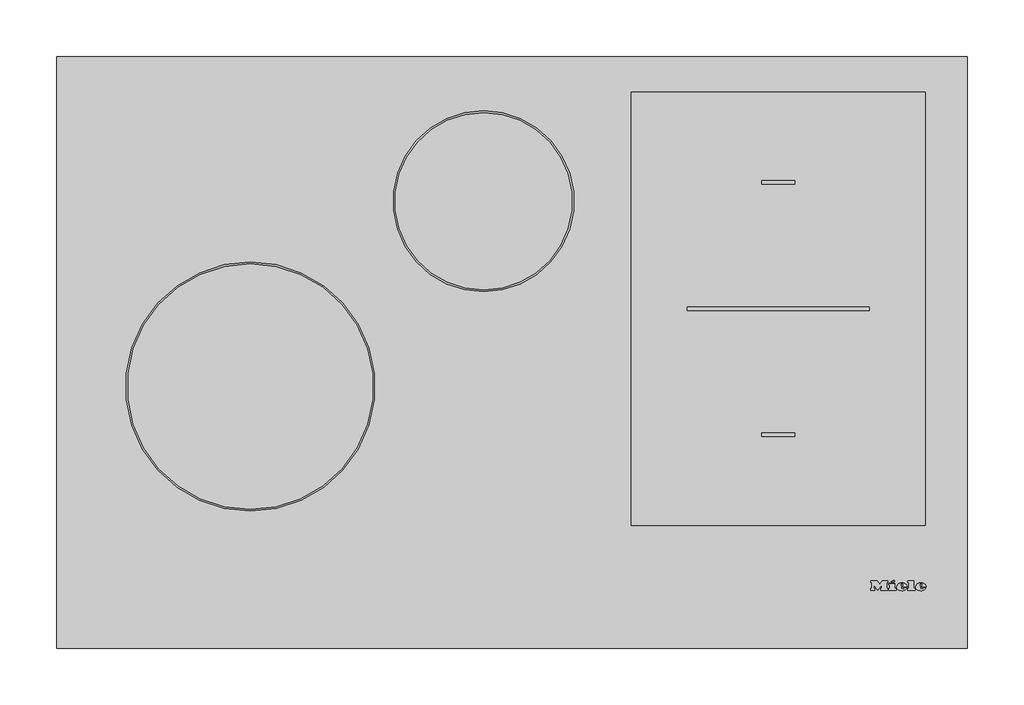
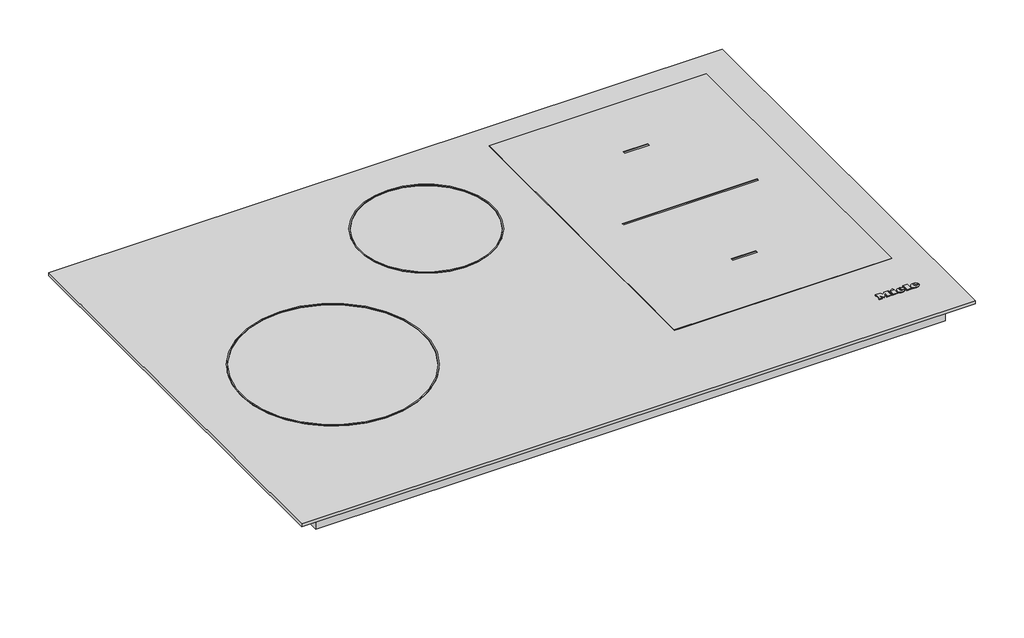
# Not in any storey: 1 proxy.
"""IFC4 building model written with IfcOpenShell, lengths in millimetres."""

import ifcopenshell
import ifcopenshell.guid

model = None  # the IFC model being written
_history = None  # IfcOwnerHistory: only IFC2X3 demands one
_inside = {}  # id of a spatial element -> (the spatial element, [elements in it])
_under = {}  # id of a project, library or spatial element -> (it, [spatial elements below it])
_declared = {}  # id of a project -> (the project, [libraries it declares])
_typed = {}  # id of a type object -> (the type object, [elements of that type])
_made_of = {}  # id of a material, layer set ... -> (it, [elements and type objects made of it])


def new_model(schema):
    """Start an empty IFC model of exactly this schema.

    Asked for "IFC4X3", IfcOpenShell would pick the latest addendum, in which some entities
    have other attributes; the version numbers below select the first issue.
    IFC2X3 requires an IfcOwnerHistory on every rooted entity: one is made here for all.
    """
    global model, _history
    if schema == "IFC4X3":
        model = ifcopenshell.file(schema_version=(4, 3, 0, 0))
    else:
        model = ifcopenshell.file(schema=schema)
    _inside.clear()
    _under.clear()
    _declared.clear()
    _typed.clear()
    _made_of.clear()
    _history = None
    if model.schema == "IFC2X3":
        org = make("IfcOrganization", Name="unknown")
        user = make(
            "IfcPersonAndOrganization",
            ThePerson=make("IfcPerson", FamilyName="unknown"),
            TheOrganization=org,
        )
        app = make(
            "IfcApplication",
            ApplicationDeveloper=org,
            Version="unknown",
            ApplicationFullName="unknown",
            ApplicationIdentifier="unknown",
        )
        _history = make(
            "IfcOwnerHistory",
            OwningUser=user,
            OwningApplication=app,
            ChangeAction="ADDED",
            CreationDate=0,
        )
    return model


def make(cls, **values):
    """One entity of the class cls with the attributes given. An attribute that is None is left unset."""
    return model.create_entity(
        cls, **{name: value for name, value in values.items() if value is not None}
    )


def rooted(cls, **values):
    """An entity with a GlobalId (a new one), such as an element, a storey or a relation."""
    return make(cls, GlobalId=ifcopenshell.guid.new(), OwnerHistory=_history, **values)


def si_unit(unit_type, name, prefix=None):
    """IfcSIUnit, for example si_unit("LENGTHUNIT", "METRE", prefix="MILLI")."""
    return make("IfcSIUnit", UnitType=unit_type, Prefix=prefix, Name=name)


def assignment(units):
    """IfcUnitAssignment: the units of a project."""
    return None if units is None else make("IfcUnitAssignment", Units=units)


def point(xyz):
    """IfcCartesianPoint."""
    return None if xyz is None else make("IfcCartesianPoint", Coordinates=xyz)


def direction(xyz):
    """IfcDirection."""
    return None if xyz is None else make("IfcDirection", DirectionRatios=xyz)


def frame(location, z_axis=None, x_axis=None):
    """IfcAxis2Placement3D, a coordinate frame: its origin and axes. An axis left out is left unset."""
    return make(
        "IfcAxis2Placement3D",
        Location=point(location),
        Axis=direction(z_axis),
        RefDirection=direction(x_axis),
    )


def frame_2d(location, x_axis=None):
    """IfcAxis2Placement2D, a coordinate frame in the plane: its origin and x axis."""
    return make(
        "IfcAxis2Placement2D", Location=point(location), RefDirection=direction(x_axis)
    )


def origin():
    """The frame at (0, 0, 0) with its axes left unset."""
    return frame((0.0, 0.0, 0.0))


def origin_with_axes():
    """The frame at (0, 0, 0) with the z axis (0, 0, 1) and the x axis (1, 0, 0) written out."""
    return frame((0.0, 0.0, 0.0), z_axis=(0.0, 0.0, 1.0), x_axis=(1.0, 0.0, 0.0))


def place(relative_to, where):
    """IfcLocalPlacement: puts the frame where relative to a parent placement (None: the world)."""
    return make(
        "IfcLocalPlacement", PlacementRelTo=relative_to, RelativePlacement=where
    )


def context(
    kind, dimensions, precision=None, world=None, true_north=None, identifier=None
):
    """IfcGeometricRepresentationContext, for example the 3D "Model" context."""
    return make(
        "IfcGeometricRepresentationContext",
        ContextIdentifier=identifier,
        ContextType=kind,
        CoordinateSpaceDimension=dimensions,
        Precision=precision,
        WorldCoordinateSystem=world,
        TrueNorth=true_north,
    )


def project(units=None, contexts=None):
    """IfcProject with its units and contexts."""
    return rooted(
        "IfcProject",
        Name="project",
        RepresentationContexts=contexts,
        UnitsInContext=assignment(units),
    )


def spatial(cls, under=None, at=None, **own):
    """A site, building, storey or space (cls), placed at a placement, below another one or the project."""
    s = rooted(cls, ObjectPlacement=at, **own)
    if under is not None:
        _under.setdefault(under.id(), (under, []))[1].append(s)
    return s


def polyline(points):
    """IfcPolyline through the points."""
    return make("IfcPolyline", Points=[point(p) for p in points])


def circle_curve(where, radius):
    """IfcCircle in the frame where."""
    return make("IfcCircle", Position=where, Radius=radius)


def ellipse_curve(where, semi_axis1, semi_axis2):
    """IfcEllipse in the frame where."""
    return make(
        "IfcEllipse", Position=where, SemiAxis1=semi_axis1, SemiAxis2=semi_axis2
    )


def trimmed(basis, trim1, trim2, sense, master):
    """IfcTrimmedCurve: the piece of a basis curve between two trims."""
    return make(
        "IfcTrimmedCurve",
        BasisCurve=basis,
        Trim1=trim1,
        Trim2=trim2,
        SenseAgreement=sense,
        MasterRepresentation=master,
    )


def segment(curve, same_sense, transition):
    """IfcCompositeCurveSegment."""
    return make(
        "IfcCompositeCurveSegment",
        Transition=transition,
        SameSense=same_sense,
        ParentCurve=curve,
    )


def composite_curve(segments, self_intersect=None):
    """IfcCompositeCurve: segments joined end to end."""
    return make("IfcCompositeCurve", Segments=segments, SelfIntersect=self_intersect)


def outline(outer, holes=None, kind="AREA"):
    """IfcArbitraryClosedProfileDef: a profile drawn as a closed curve; with holes, ...WithVoids."""
    if holes is None:
        return make("IfcArbitraryClosedProfileDef", ProfileType=kind, OuterCurve=outer)
    return make(
        "IfcArbitraryProfileDefWithVoids",
        ProfileType=kind,
        OuterCurve=outer,
        InnerCurves=holes,
    )


def extrude(swept, where, along, depth):
    """IfcExtrudedAreaSolid: the profile swept, set in the frame where, extruded along a direction by depth."""
    return make(
        "IfcExtrudedAreaSolid",
        SweptArea=swept,
        Position=where,
        ExtrudedDirection=direction(along),
        Depth=depth,
    )


def shape(context_of_items, identifier, shape_type, items):
    """IfcShapeRepresentation: the items that make up one representation, for example the "Body"."""
    return make(
        "IfcShapeRepresentation",
        ContextOfItems=context_of_items,
        RepresentationIdentifier=identifier,
        RepresentationType=shape_type,
        Items=items,
    )


def source(mapping_origin, context_of_items, identifier, shape_type, items):
    """IfcRepresentationMap: a shape defined once, which mapped items show again and again."""
    return make(
        "IfcRepresentationMap",
        MappingOrigin=mapping_origin,
        MappedRepresentation=shape(context_of_items, identifier, shape_type, items),
    )


def transform(
    local_origin,
    x_axis=None,
    y_axis=None,
    z_axis=None,
    scale=None,
    scale2=None,
    scale3=None,
    uniform=True,
):
    """IfcCartesianTransformationOperator3D, or its non-uniform kind. x_axis, y_axis, z_axis: its Axis1, 2, 3."""
    if uniform:
        return make(
            "IfcCartesianTransformationOperator3D",
            Axis1=direction(x_axis),
            Axis2=direction(y_axis),
            LocalOrigin=point(local_origin),
            Scale=scale,
            Axis3=direction(z_axis),
        )
    return make(
        "IfcCartesianTransformationOperator3DnonUniform",
        Axis1=direction(x_axis),
        Axis2=direction(y_axis),
        LocalOrigin=point(local_origin),
        Scale=scale,
        Axis3=direction(z_axis),
        Scale2=scale2,
        Scale3=scale3,
    )


def mapped(mapping_source, mapping_target):
    """IfcMappedItem: shows the shape of a source again, moved by a transform."""
    return make(
        "IfcMappedItem", MappingSource=mapping_source, MappingTarget=mapping_target
    )


def made_of(thing, what):
    """Note that an element or type object is made of a material, layer set ...; save() writes the relation."""
    if what is not None:
        _made_of.setdefault(what.id(), (what, []))[1].append(thing)
    return thing


def element(
    cls,
    number,
    at=None,
    inside=None,
    cuts=None,
    type_object=None,
    material=None,
    context=None,
    identifier="Body",
    shape_type=None,
    held_by="IfcProductDefinitionShape",
    body=None,
    shapes=None,
    **own,
):
    """One element of the class cls, such as IfcWall. Its Tag is "e" and its number.

    at: its placement. inside: the storey or other place that contains it. cuts: it is an
    opening in that element (IfcRelVoidsElement). A single representation is given by context,
    identifier, shape_type and body (its items); several are given by shapes. held_by: the class
    of the entity that holds the representations. save() writes the other relations.
    """
    e = rooted(cls, Tag="e%d" % number, ObjectPlacement=at, **own)
    if body is not None:
        shapes = [shape(context, identifier, shape_type, body)]
    if shapes is not None:
        e.Representation = make(held_by, Representations=shapes)
    if inside is not None:
        _inside.setdefault(inside.id(), (inside, []))[1].append(e)
    if cuts is not None:
        rooted(
            "IfcRelVoidsElement", RelatingBuildingElement=cuts, RelatedOpeningElement=e
        )
    if type_object is not None:
        _typed.setdefault(type_object.id(), (type_object, []))[1].append(e)
    return made_of(e, material)


def aggregate(whole, parts):
    """IfcRelAggregates: a whole, such as a stair, and the parts it consists of."""
    return rooted("IfcRelAggregates", RelatingObject=whole, RelatedObjects=parts)


def save(model, path):
    """Write the relations noted so far, then the file.

    IfcRelAggregates (storeys below a building ...), IfcRelContainedInSpatialStructure (elements
    in a storey), IfcRelDefinesByType, IfcRelAssociatesMaterial and IfcRelDeclares: one each for
    every whole, place, type object, material and project.
    """
    for whole, parts in _under.values():
        aggregate(whole, parts)
    for where, things in _inside.values():
        rooted(
            "IfcRelContainedInSpatialStructure",
            RelatedElements=things,
            RelatingStructure=where,
        )
    for kind, things in _typed.values():
        rooted("IfcRelDefinesByType", RelatedObjects=things, RelatingType=kind)
    for what, things in _made_of.values():
        rooted("IfcRelAssociatesMaterial", RelatedObjects=things, RelatingMaterial=what)
    for by, libraries in _declared.values():
        rooted("IfcRelDeclares", RelatingContext=by, RelatedDefinitions=libraries)
    model.write(path)


def plane_surface(at):
    """IfcPlane: the flat surface through the origin of the frame at, square to its z axis."""
    return make("IfcPlane", Position=at)


def cylinder_surface(at, radius):
    """IfcCylindricalSurface: all points at the distance radius from the z axis of the frame at."""
    return make("IfcCylindricalSurface", Position=at, Radius=radius)


def revolved_surface(curve, axis_point, axis_direction):
    """IfcSurfaceOfRevolution: the curve turned about the line through axis_point along axis_direction."""
    return make(
        "IfcSurfaceOfRevolution",
        SweptCurve=make("IfcArbitraryOpenProfileDef", ProfileType="CURVE", Curve=curve),
        AxisPosition=make("IfcAxis1Placement", Location=point(axis_point), Axis=direction(axis_direction)),
    )


def extruded_surface(curve, direction_of_extrusion, depth):
    """IfcSurfaceOfLinearExtrusion: the curve pushed along a direction by depth."""
    return make(
        "IfcSurfaceOfLinearExtrusion",
        SweptCurve=make("IfcArbitraryOpenProfileDef", ProfileType="CURVE", Curve=curve),
        ExtrudedDirection=direction(direction_of_extrusion),
        Depth=depth,
    )


def advanced_brep(points, edges, surfaces, faces):
    """IfcAdvancedBrep: a solid bounded by faces that lie on surfaces and meet in shared edges.

    An edge is (start, end): straight between two places in points (the first is 0);
    or (start, end, curve); or (start, end, curve, False) where it runs against its curve.
    A face is (place in surfaces, loops), or (place, loops, False) where it looks against
    its surface's normal. A loop lists edges by number (the first is 1), with a minus sign
    where the edge is run from its end to its start. The first loop is the outer one.
    """
    corners = [point(p) for p in points]
    vertices = [make("IfcVertexPoint", VertexGeometry=c) for c in corners]
    made = []
    for start, end, *more in edges:
        made.append(
            make(
                "IfcEdgeCurve",
                EdgeStart=vertices[start],
                EdgeEnd=vertices[end],
                EdgeGeometry=more[0] if more else make("IfcPolyline", Points=[corners[start], corners[end]]),
                SameSense=more[1] if len(more) > 1 else True,
            )
        )
    hull = []
    for where, loops, *sense in faces:
        bounds = []
        for j, loop in enumerate(loops):
            ring = [make("IfcOrientedEdge", EdgeElement=made[abs(k) - 1], Orientation=k > 0) for k in loop]
            bounds.append(
                make(
                    "IfcFaceOuterBound" if j == 0 else "IfcFaceBound",
                    Bound=make("IfcEdgeLoop", EdgeList=ring),
                    Orientation=True,
                )
            )
        hull.append(make("IfcAdvancedFace", Bounds=bounds, FaceSurface=surfaces[where], SameSense=sense[0] if sense else True))
    return make("IfcAdvancedBrep", Outer=make("IfcClosedShell", CfsFaces=hull))


def specialty_equipment_5556e589(model_context):
    return source(origin(), model_context, "Body", "SolidModel", [
        advanced_brep(
        [(358.648, 52.8948833, 4.9922537), (358.648, 53.7028828, 4.9931551), (364.0, 53.7028828, 4.9931551), (354.688, 53.7028828, 4.9931551), (356.888, 50.9988845, 4.9901386), (363.864, 52.8948833, 4.9922537), (361.448, 52.8948833, 4.9922537), (359.544, 51.9988838, 4.9912542), (358.648, 54.7268821, 4.9942974), (358.648, 55.5988816, 4.9952701), (360.016, 55.5988816, 4.9952701), (360.016, 54.7268821, 4.9942974), (358.648, 52.8959988, 3.9922543), (359.544, 51.9999994, 3.9912548), (361.448, 52.8959988, 3.9922543), (363.864, 52.8959988, 3.9922543), (356.888, 51.0, 3.9901393), (354.688, 53.7039983, 3.9931557), (364.0, 53.7039983, 3.9931557), (358.648, 53.7039983, 3.9931557), (358.648, 54.7279977, 3.994298), (360.016, 54.7279977, 3.994298), (360.016, 55.5999971, 3.9952707), (358.648, 55.5999971, 3.9952707)],
        [
            (0, 1),
            (1, 2),
            (2, 3, ellipse_curve(frame((359.344, 53.7028828, 4.9931551), z_axis=(0.0, -0.0011155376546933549, 0.9999993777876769), x_axis=(-1.0, 0.0, 0.0)), 4.656, 3.848)),
            (3, 4, circle_curve(frame((357.7840436, 53.9748826, 4.9934585), z_axis=(0.0, -0.0011155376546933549, 0.9999993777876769), x_axis=(0.0, -0.9999993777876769, -0.0011155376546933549)), 3.1079688)),
            (4, 5, circle_curve(frame((359.2507936, 56.0868813, 4.9958145), z_axis=(0.0, -0.0011155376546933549, 0.9999993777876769), x_axis=(0.0, -0.9999993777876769, -0.0011155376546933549)), 5.6098607)),
            (5, 6),
            (6, 7, circle_curve(frame((359.9350588, 53.6388828, 4.9930837), z_axis=(0.0, 0.0011155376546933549, -0.9999993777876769), x_axis=(0.0, -0.9999993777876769, -0.0011155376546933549)), 1.6859795)),
            (7, 0, circle_curve(frame((359.544, 52.8948833, 4.9922537), z_axis=(0.0, 0.0011155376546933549, -0.9999993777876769), x_axis=(0.0, -0.9999993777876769, -0.0011155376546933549)), 0.896)),
            (8, 9),
            (9, 10, circle_curve(frame((359.332, 55.5988816, 4.9952701), z_axis=(0.0, 0.0011155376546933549, -0.9999993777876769), x_axis=(0.0, -0.9999993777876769, -0.0011155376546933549)), 0.684)),
            (10, 11),
            (11, 8),
            (12, 13, circle_curve(frame((359.544, 52.8959988, 3.9922543), z_axis=(0.0, -0.0011155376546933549, 0.9999993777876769), x_axis=(0.0, -0.9999993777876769, -0.0011155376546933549)), 0.896)),
            (13, 14, circle_curve(frame((359.9350588, 53.6399984, 3.9930843), z_axis=(0.0, -0.0011155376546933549, 0.9999993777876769), x_axis=(0.0, -0.9999993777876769, -0.0011155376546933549)), 1.6859795)),
            (14, 15),
            (15, 16, circle_curve(frame((359.2507936, 56.0879968, 3.9958151), z_axis=(0.0, 0.0011155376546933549, -0.9999993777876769), x_axis=(0.0, -0.9999993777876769, -0.0011155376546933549)), 5.6098607)),
            (16, 17, circle_curve(frame((357.7840436, 53.9759981, 3.9934591), z_axis=(0.0, 0.0011155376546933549, -0.9999993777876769), x_axis=(0.0, -0.9999993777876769, -0.0011155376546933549)), 3.1079688)),
            (17, 18, ellipse_curve(frame((359.344, 53.7039983, 3.9931557), z_axis=(0.0, 0.0011155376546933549, -0.9999993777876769), x_axis=(-1.0, 0.0, 0.0)), 4.656, 3.848)),
            (18, 19),
            (19, 12),
            (20, 21),
            (21, 22),
            (22, 23, circle_curve(frame((359.332, 55.5999971, 3.9952707), z_axis=(0.0, -0.0011155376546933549, 0.9999993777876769), x_axis=(0.0, -0.9999993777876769, -0.0011155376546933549)), 0.684)),
            (23, 20),
            (0, 12),
            (19, 1),
            (18, 2),
            (5, 15),
            (14, 6),
            (17, 3),
            (13, 7),
            (16, 4),
            (8, 20),
            (23, 9),
            (22, 10),
            (21, 11),
        ],
        [
            plane_surface(frame((358.648, 53.7028828, 4.9931551), z_axis=(0.0, -0.0011155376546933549, 0.9999993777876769), x_axis=(0.0, 0.9999993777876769, 0.0011155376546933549))),
            plane_surface(frame((358.648, 53.7039983, 3.9931557), z_axis=(0.0, 0.0011155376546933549, -0.9999993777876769), x_axis=(0.0, -0.9999993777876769, -0.0011155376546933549))),
            plane_surface(frame((358.648, 52.8948833, 4.9922537), z_axis=(1.0000000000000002, 0.0, 0.0), x_axis=(0.0, 0.001115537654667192, -0.999999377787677))),
            plane_surface(frame((358.648, 53.7028828, 4.9931551), z_axis=(0.0, -0.999999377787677, -0.001115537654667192), x_axis=(0.0, 0.001115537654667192, -0.999999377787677))),
            plane_surface(frame((363.864, 52.8948833, 4.9922537), z_axis=(0.0, 0.999999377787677, 0.001115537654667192), x_axis=(0.0, 0.001115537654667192, -0.999999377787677))),
            extruded_surface(trimmed(ellipse_curve(frame((359.344, 53.7051139, 2.9931563), z_axis=(0.0, -0.0011155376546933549, 0.9999993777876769), x_axis=(-1.0, 0.0, 0.0)), 4.656, 3.848), [point((364.0, 53.7051139, 2.9931563))], [point((354.688, 53.7051139, 2.9931563))], True, "CARTESIAN"), (0.0, -0.001115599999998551, 0.9999994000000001), 1.00000002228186),
            revolved_surface(polyline([(359.9350588, 51.954019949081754, 3.991203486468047), (359.9350588, 51.95290441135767, 4.99120292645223)]), (359.9350588, 53.6399984, 3.9930843), (0.0, 0.0011155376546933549, -0.9999993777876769)),
            revolved_surface(polyline([(359.544, 51.99999935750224, 3.9912547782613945), (359.544, 51.99888381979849, 4.991254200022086)]), (359.544, 52.8959988, 3.9922543), (0.0, 0.0011155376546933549, -0.9999993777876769)),
            cylinder_surface(frame((357.7840436, 53.9759981, 3.9934591), z_axis=(0.0, -0.0011155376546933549, 0.9999993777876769), x_axis=(0.0, -0.9999993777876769, -0.0011155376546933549)), 3.1079688),
            cylinder_surface(frame((359.2507936, 56.0879968, 3.9958151), z_axis=(0.0, -0.0011155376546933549, 0.9999993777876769), x_axis=(0.0, -0.9999993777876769, -0.0011155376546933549)), 5.6098607),
            plane_surface(frame((358.648, 54.7268821, 4.9942974), z_axis=(1.0000000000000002, 0.0, 0.0), x_axis=(0.0, 0.001115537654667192, -0.999999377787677))),
            revolved_surface(polyline([(359.332, 54.915997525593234, 3.9945076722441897), (359.332, 54.91488198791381, 4.994507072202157)]), (359.332, 55.5999971, 3.9952707), (0.0, 0.0011155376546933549, -0.9999993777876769)),
            plane_surface(frame((360.016, 55.5988816, 4.9952701), z_axis=(-1.0000000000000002, 0.0, 0.0), x_axis=(0.0, 0.001115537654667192, -0.999999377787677))),
            plane_surface(frame((360.016, 54.7268821, 4.9942974), z_axis=(0.0, 0.999999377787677, 0.001115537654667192), x_axis=(0.0, 0.001115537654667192, -0.999999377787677))),
        ],
        [
            (0, [[1, 2, 3, 4, 5, 6, 7, 8], [9, 10, 11, 12]]),
            (1, [[13, 14, 15, 16, 17, 18, 19, 20], [21, 22, 23, 24]]),
            (2, [[-1, 25, -20, 26]]),
            (3, [[-2, -26, -19, 27]]),
            (4, [[-6, 28, -15, 29]]),
            (5, [[-3, -27, -18, 30]]),
            (6, [[-7, -29, -14, 31]]),
            (7, [[-8, -31, -13, -25]]),
            (8, [[-4, -30, -17, 32]]),
            (9, [[-5, -32, -16, -28]]),
            (10, [[-9, 33, -24, 34]]),
            (11, [[-10, -34, -23, 35]]),
            (12, [[-11, -35, -22, 36]]),
            (13, [[-12, -36, -21, -33]]),
        ],
    ),
        advanced_brep(
        [(341.952, 52.8948833, 4.9922537), (341.952, 53.7028828, 4.9931551), (347.304, 53.7028828, 4.9931551), (337.992, 53.7028828, 4.9931551), (340.192, 50.9988845, 4.9901386), (347.168, 52.8948833, 4.9922537), (344.752, 52.8948833, 4.9922537), (342.848, 51.9988838, 4.9912542), (341.952, 54.7268821, 4.9942974), (341.952, 55.5988816, 4.9952701), (343.32, 55.5988816, 4.9952701), (343.32, 54.7268821, 4.9942974), (341.952, 52.8959988, 3.9922543), (342.848, 51.9999994, 3.9912548), (344.752, 52.8959988, 3.9922543), (347.168, 52.8959988, 3.9922543), (340.192, 51.0, 3.9901393), (337.992, 53.7039983, 3.9931557), (347.304, 53.7039983, 3.9931557), (341.952, 53.7039983, 3.9931557), (341.952, 54.7279977, 3.994298), (343.32, 54.7279977, 3.994298), (343.32, 55.5999971, 3.9952707), (341.952, 55.5999971, 3.9952707)],
        [
            (0, 1),
            (1, 2),
            (2, 3, ellipse_curve(frame((342.648, 53.7028828, 4.9931551), z_axis=(0.0, -0.0011155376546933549, 0.9999993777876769), x_axis=(-1.0, 0.0, 0.0)), 4.656, 3.848)),
            (3, 4, circle_curve(frame((341.0880436, 53.9748826, 4.9934585), z_axis=(0.0, -0.0011155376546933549, 0.9999993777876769), x_axis=(0.0, -0.9999993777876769, -0.0011155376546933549)), 3.1079688)),
            (4, 5, circle_curve(frame((342.5547936, 56.0868813, 4.9958145), z_axis=(0.0, -0.0011155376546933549, 0.9999993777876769), x_axis=(0.0, -0.9999993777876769, -0.0011155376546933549)), 5.6098607)),
            (5, 6),
            (6, 7, circle_curve(frame((343.2390588, 53.6388828, 4.9930837), z_axis=(0.0, 0.0011155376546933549, -0.9999993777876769), x_axis=(0.0, -0.9999993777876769, -0.0011155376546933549)), 1.6859795)),
            (7, 0, circle_curve(frame((342.848, 52.8948833, 4.9922537), z_axis=(0.0, 0.0011155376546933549, -0.9999993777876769), x_axis=(0.0, -0.9999993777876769, -0.0011155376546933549)), 0.896)),
            (8, 9),
            (9, 10, circle_curve(frame((342.636, 55.5988816, 4.9952701), z_axis=(0.0, 0.0011155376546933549, -0.9999993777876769), x_axis=(0.0, -0.9999993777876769, -0.0011155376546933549)), 0.684)),
            (10, 11),
            (11, 8),
            (12, 13, circle_curve(frame((342.848, 52.8959988, 3.9922543), z_axis=(0.0, -0.0011155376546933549, 0.9999993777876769), x_axis=(0.0, -0.9999993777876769, -0.0011155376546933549)), 0.896)),
            (13, 14, circle_curve(frame((343.2390588, 53.6399984, 3.9930843), z_axis=(0.0, -0.0011155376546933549, 0.9999993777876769), x_axis=(0.0, -0.9999993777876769, -0.0011155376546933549)), 1.6859795)),
            (14, 15),
            (15, 16, circle_curve(frame((342.5547936, 56.0879968, 3.9958151), z_axis=(0.0, 0.0011155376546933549, -0.9999993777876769), x_axis=(0.0, -0.9999993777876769, -0.0011155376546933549)), 5.6098607)),
            (16, 17, circle_curve(frame((341.0880436, 53.9759981, 3.9934591), z_axis=(0.0, 0.0011155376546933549, -0.9999993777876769), x_axis=(0.0, -0.9999993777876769, -0.0011155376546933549)), 3.1079688)),
            (17, 18, ellipse_curve(frame((342.648, 53.7039983, 3.9931557), z_axis=(0.0, 0.0011155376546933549, -0.9999993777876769), x_axis=(-1.0, 0.0, 0.0)), 4.656, 3.848)),
            (18, 19),
            (19, 12),
            (20, 21),
            (21, 22),
            (22, 23, circle_curve(frame((342.636, 55.5999971, 3.9952707), z_axis=(0.0, -0.0011155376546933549, 0.9999993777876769), x_axis=(0.0, -0.9999993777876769, -0.0011155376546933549)), 0.684)),
            (23, 20),
            (0, 12),
            (19, 1),
            (18, 2),
            (5, 15),
            (14, 6),
            (17, 3),
            (13, 7),
            (16, 4),
            (8, 20),
            (23, 9),
            (22, 10),
            (21, 11),
        ],
        [
            plane_surface(frame((341.952, 53.7028828, 4.9931551), z_axis=(0.0, -0.0011155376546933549, 0.9999993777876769), x_axis=(0.0, 0.9999993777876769, 0.0011155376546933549))),
            plane_surface(frame((341.952, 53.7039983, 3.9931557), z_axis=(0.0, 0.0011155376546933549, -0.9999993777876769), x_axis=(0.0, -0.9999993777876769, -0.0011155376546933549))),
            plane_surface(frame((341.952, 52.8948833, 4.9922537), z_axis=(1.0000000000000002, 0.0, 0.0), x_axis=(0.0, 0.001115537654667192, -0.999999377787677))),
            plane_surface(frame((341.952, 53.7028828, 4.9931551), z_axis=(0.0, -0.999999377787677, -0.001115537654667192), x_axis=(0.0, 0.001115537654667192, -0.999999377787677))),
            plane_surface(frame((347.168, 52.8948833, 4.9922537), z_axis=(0.0, 0.999999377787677, 0.001115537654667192), x_axis=(0.0, 0.001115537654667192, -0.999999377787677))),
            extruded_surface(trimmed(ellipse_curve(frame((342.648, 53.7051139, 2.9931563), z_axis=(0.0, -0.0011155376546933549, 0.9999993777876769), x_axis=(-1.0, 0.0, 0.0)), 4.656, 3.848), [point((347.304, 53.7051139, 2.9931563))], [point((337.992, 53.7051139, 2.9931563))], True, "CARTESIAN"), (0.0, -0.001115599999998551, 0.9999994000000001), 1.00000002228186),
            revolved_surface(polyline([(343.2390588, 51.954019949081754, 3.991203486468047), (343.2390588, 51.95290441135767, 4.99120292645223)]), (343.2390588, 53.6399984, 3.9930843), (0.0, 0.0011155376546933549, -0.9999993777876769)),
            revolved_surface(polyline([(342.848, 51.99999935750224, 3.9912547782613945), (342.848, 51.99888381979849, 4.991254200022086)]), (342.848, 52.8959988, 3.9922543), (0.0, 0.0011155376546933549, -0.9999993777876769)),
            cylinder_surface(frame((341.0880436, 53.9759981, 3.9934591), z_axis=(0.0, -0.0011155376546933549, 0.9999993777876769), x_axis=(0.0, -0.9999993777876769, -0.0011155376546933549)), 3.1079688),
            cylinder_surface(frame((342.5547936, 56.0879968, 3.9958151), z_axis=(0.0, -0.0011155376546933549, 0.9999993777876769), x_axis=(0.0, -0.9999993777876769, -0.0011155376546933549)), 5.6098607),
            plane_surface(frame((341.952, 54.7268821, 4.9942974), z_axis=(1.0000000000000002, 0.0, 0.0), x_axis=(0.0, 0.001115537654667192, -0.999999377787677))),
            revolved_surface(polyline([(342.636, 54.915997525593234, 3.9945076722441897), (342.636, 54.91488198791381, 4.994507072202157)]), (342.636, 55.5999971, 3.9952707), (0.0, 0.0011155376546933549, -0.9999993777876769)),
            plane_surface(frame((343.32, 55.5988816, 4.9952701), z_axis=(-1.0000000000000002, 0.0, 0.0), x_axis=(0.0, 0.001115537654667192, -0.999999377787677))),
            plane_surface(frame((343.32, 54.7268821, 4.9942974), z_axis=(0.0, 0.999999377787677, 0.001115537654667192), x_axis=(0.0, 0.001115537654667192, -0.999999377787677))),
        ],
        [
            (0, [[1, 2, 3, 4, 5, 6, 7, 8], [9, 10, 11, 12]]),
            (1, [[13, 14, 15, 16, 17, 18, 19, 20], [21, 22, 23, 24]]),
            (2, [[-1, 25, -20, 26]]),
            (3, [[-2, -26, -19, 27]]),
            (4, [[-6, 28, -15, 29]]),
            (5, [[-3, -27, -18, 30]]),
            (6, [[-7, -29, -14, 31]]),
            (7, [[-8, -31, -13, -25]]),
            (8, [[-4, -30, -17, 32]]),
            (9, [[-5, -32, -16, -28]]),
            (10, [[-9, 33, -24, 34]]),
            (11, [[-10, -34, -23, 35]]),
            (12, [[-11, -35, -22, 36]]),
            (13, [[-12, -36, -21, -33]]),
        ],
    ),
        extrude(outline(polyline([(0.0, 0.0), (-0.0109086, -2.9993294), (-1.4390415, -2.9920868), (-1.4315307, 0.0), (0.0, 0.0)])), frame((333.208, 58.5279953, 3.998537), z_axis=(0.0, -0.001115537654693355, 0.999999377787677), x_axis=(-0.4247202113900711, 0.9053240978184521, 0.0010099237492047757)), (0.0, 0.0, 1.0), 1.0),
        extrude(outline(polyline([(-0.4933908, 2.4141097), (-2.7800844, -2.4601583), (-7.0459741, -0.4588767), (-7.4401145, -1.299018), (-8.6568709, -0.728194), (-5.9760369, 4.9862153), (-4.7592805, 4.4153913), (-5.1636142, 3.5535222), (-2.1941493, 2.1604399), (-1.7898157, 3.022309), (-0.4933908, 2.4141097)])), frame((333.208, 58.5279953, 3.998537), z_axis=(0.0, -0.001115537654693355, 0.999999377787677), x_axis=(-0.4247202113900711, 0.9053240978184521, 0.0010099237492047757)), (0.0, 0.0, 1.0), 1.0),
        extrude(outline(polyline([(0.0, 0.0), (0.0, -1.304), (-5.504, -1.304), (-5.504, 5.3519999), (-6.488, 5.3519999), (-6.488, 6.696), (0.0, 6.696), (0.0, 5.3519999), (-0.96, 5.3519999), (-0.96, 0.0), (0.0, 0.0)])), frame((347.752, 57.6959958, 3.9976089), z_axis=(0.0, -0.0011155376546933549, 0.9999993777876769), x_axis=(-1.0, 0.0, 0.0)), (0.0, 0.0, 1.0), 1.0),
        extrude(outline(polyline([(0.0, 0.0), (0.0, -1.304), (-5.576, -1.304), (-7.92, 1.696), (-10.256, -1.304), (-15.128, -1.304), (-15.128, 0.0), (-14.112, 0.0), (-14.112, 5.3519999), (-15.128, 5.3519999), (-15.128, 6.696), (-8.744, 6.696), (-8.744, 5.3519999), (-9.728, 5.3519999), (-9.728, 1.8807777), (-6.136, 6.696), (-2.56, 1.9488752), (-2.56, 5.3519999), (-3.52, 5.3519999), (-3.52, 6.696), (0.0, 6.696), (0.0, 5.3519999), (-0.968, 5.3519999), (-0.968, 0.0), (0.0, 0.0)])), frame((315.288, 57.6959958, 3.9976089), z_axis=(0.0, -0.0011155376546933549, 0.9999993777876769), x_axis=(-1.0, 0.0, 0.0)), (0.0, 0.0, 1.0), 1.0),
        extrude(outline(polyline([(182.3772603, 428.0), (175.0, 428.0), (175.0, 429.2557039), (181.1215564, 429.2557039), (181.1215564, 432.5519266), (175.470889, 432.5519266), (175.470889, 433.8076304), (181.1215564, 433.8076304), (181.1215564, 436.7899271), (175.156963, 436.7899271), (175.156963, 438.045631), (182.3772603, 438.045631), (182.3772603, 428.0)])), frame((0.0, 0.0, -78.0), z_axis=(0.0, 0.0, 1.0), x_axis=(1.0, 0.0, 0.0)), (0.0, 0.0, 1.0), 1.0),
        extrude(outline(polyline([(173.1164442, 428.0), (166.8379248, 428.0), (166.8379248, 429.2557039), (171.8607403, 429.2557039), (171.8607403, 438.045631), (173.1164442, 438.045631), (173.1164442, 428.0)])), frame((0.0, 0.0, -78.0), z_axis=(0.0, 0.0, 1.0), x_axis=(1.0, 0.0, 0.0)), (0.0, 0.0, 1.0), 1.0),
        extrude(outline(polyline([(400.0, 520.0), (400.0, 0.0), (-400.0, 0.0), (-400.0, 520.0), (400.0, 520.0)])), origin_with_axes(), (0.0, 0.0, 1.0), 4.0),
        extrude(outline(polyline([(373.5, 503.5), (373.5, 16.5), (-373.5, 16.5), (-373.5, 503.5), (373.5, 503.5)])), frame((0.0, 0.0, -22.0), z_axis=(0.0, 0.0, 1.0), x_axis=(1.0, 0.0, 0.0)), (0.0, 0.0, 1.0), 22.0),
        extrude(outline(composite_curve([segment(trimmed(circle_curve(frame_2d((-25.0, 393.0)), 79.5), [point((-25.0, 472.5))], [point((-25.0, 313.5))], False, "CARTESIAN"), True, "CONTINUOUS"), segment(trimmed(circle_curve(frame_2d((-25.0, 393.0)), 79.5), [point((-25.0, 313.5))], [point((-25.0, 472.5))], False, "CARTESIAN"), True, "CONTINUOUS")], self_intersect=False), holes=[composite_curve([segment(trimmed(circle_curve(frame_2d((-25.0, 393.0)), 78.0), [point((-25.0, 471.0))], [point((-25.0, 315.0))], True, "CARTESIAN"), True, "CONTINUOUS"), segment(trimmed(circle_curve(frame_2d((-25.0, 393.0)), 78.0), [point((-25.0, 315.0))], [point((-25.0, 471.0))], True, "CARTESIAN"), True, "CONTINUOUS")], self_intersect=False)]), frame((0.0, 0.0, 4.0), z_axis=(0.0, 0.0, 1.0), x_axis=(1.0, 0.0, 0.0)), (0.0, 0.0, 1.0), 1.0),
        extrude(outline(composite_curve([segment(trimmed(circle_curve(frame_2d((-230.0, 230.0)), 109.5), [point((-230.0, 339.5))], [point((-230.0, 120.5))], False, "CARTESIAN"), True, "CONTINUOUS"), segment(trimmed(circle_curve(frame_2d((-230.0, 230.0)), 109.5), [point((-230.0, 120.5))], [point((-230.0, 339.5))], False, "CARTESIAN"), True, "CONTINUOUS")], self_intersect=False), holes=[composite_curve([segment(trimmed(circle_curve(frame_2d((-230.0, 230.0)), 108.0), [point((-230.0, 338.0))], [point((-230.0, 122.0))], True, "CARTESIAN"), True, "CONTINUOUS"), segment(trimmed(circle_curve(frame_2d((-230.0, 230.0)), 108.0), [point((-230.0, 122.0))], [point((-230.0, 338.0))], True, "CARTESIAN"), True, "CONTINUOUS")], self_intersect=False)]), frame((0.0, 0.0, 4.0), z_axis=(0.0, 0.0, 1.0), x_axis=(1.0, 0.0, 0.0)), (0.0, 0.0, 1.0), 1.0),
        extrude(outline(polyline([(363.0, 489.0), (363.0, 108.0), (105.0, 108.0), (105.0, 489.0), (363.0, 489.0)]), holes=[polyline([(248.5, 411.0), (219.5, 411.0), (219.5, 408.0), (248.5, 408.0), (248.5, 411.0)]), polyline([(314.0, 297.0), (314.0, 300.0), (154.0, 300.0), (154.0, 297.0), (314.0, 297.0)]), polyline([(248.5, 189.0), (219.5, 189.0), (219.5, 186.0), (248.5, 186.0), (248.5, 189.0)])]), frame((0.0, 0.0, 4.0), z_axis=(0.0, 0.0, 1.0), x_axis=(1.0, 0.0, 0.0)), (0.0, 0.0, 1.0), 1.0),
        extrude(outline(composite_curve([segment(trimmed(circle_curve(frame_2d((175.0, 433.0)), 7.5), [point((175.0, 440.5))], [point((175.0, 425.5))], False, "CARTESIAN"), True, "CONTINUOUS"), segment(trimmed(circle_curve(frame_2d((175.0, 433.0)), 7.5), [point((175.0, 425.5))], [point((175.0, 440.5))], False, "CARTESIAN"), True, "CONTINUOUS")], self_intersect=False)), frame((0.0, 0.0, -77.0), z_axis=(0.0, 0.0, 1.0), x_axis=(1.0, 0.0, 0.0)), (0.0, 0.0, 1.0), 30.0),
        extrude(outline(polyline([(253.0, 467.0), (253.0, 96.0), (-253.0, 96.0), (-253.0, 467.0), (253.0, 467.0)])), frame((0.0, 0.0, -47.0), z_axis=(0.0, 0.0, 1.0), x_axis=(1.0, 0.0, 0.0)), (0.0, 0.0, 1.0), 25.0),
    ])


model = new_model("IFC4")

# Units and contexts
model_context = context("Model", 3, world=origin())
ifc_project = project(units=[si_unit("LENGTHUNIT", "METRE", prefix="MILLI")], contexts=[model_context])

# Site, building
site = spatial("IfcSite", under=ifc_project)
building = spatial("IfcBuilding", under=site)

# Proxy
placement = place(None, origin())
specialty_equipment_shape = specialty_equipment_5556e589(model_context)
element("IfcBuildingElementProxy", 1, Name="11512110_CH_KM7679FL : 26767970_CH_11512110_KM7679FL", ObjectType="11512110_CH_KM7679FL : 26767970_CH_11512110_KM7679FL", at=placement, inside=building, context=model_context, shape_type="MappedRepresentation", body=[
    mapped(specialty_equipment_shape, transform((0.0, 0.0, 0.0), x_axis=(1.0, 0.0, 0.0), y_axis=(0.0, 1.0, 0.0), z_axis=(0.0, 0.0, 1.0))),
])

save(model, "model.ifc")
